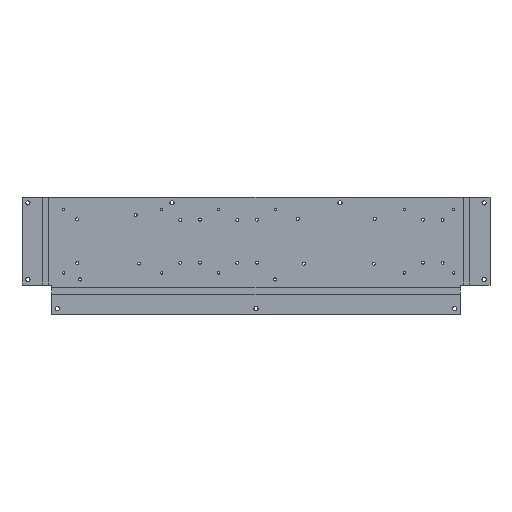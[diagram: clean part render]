
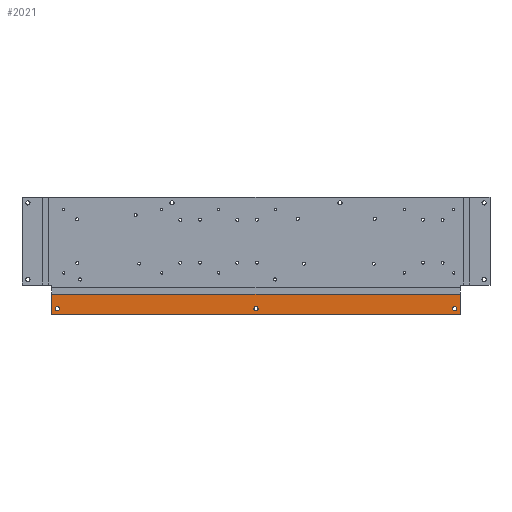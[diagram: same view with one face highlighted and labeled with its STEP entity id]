
A CAD part, top view. The second image highlights one B-rep face of the part: STEP entity #2021.
In plain terms, the highlighted planar face has unit normal (0, 0, 1).
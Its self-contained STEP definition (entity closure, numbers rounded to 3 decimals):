
#25=FACE_BOUND('',#426,.T.);
#26=FACE_BOUND('',#427,.T.);
#27=FACE_BOUND('',#428,.T.);
#196=PLANE('',#2263);
#305=FACE_OUTER_BOUND('',#425,.T.);
#425=EDGE_LOOP('',(#1765,#1766,#1767,#1768));
#426=EDGE_LOOP('',(#1769));
#427=EDGE_LOOP('',(#1770));
#428=EDGE_LOOP('',(#1771));
#626=LINE('',#3363,#773);
#633=LINE('',#3375,#780);
#641=LINE('',#3391,#788);
#643=LINE('',#3394,#790);
#773=VECTOR('',#2823,10.);
#780=VECTOR('',#2832,4.32);
#788=VECTOR('',#2848,10.);
#790=VECTOR('',#2852,10.);
#807=CIRCLE('',#2058,2.248);
#819=CIRCLE('',#2078,2.248);
#825=CIRCLE('',#2088,2.248);
#934=VERTEX_POINT('',#2922);
#946=VERTEX_POINT('',#2962);
#952=VERTEX_POINT('',#2982);
#1066=VERTEX_POINT('',#3361);
#1067=VERTEX_POINT('',#3362);
#1071=VERTEX_POINT('',#3373);
#1075=VERTEX_POINT('',#3390);
#1099=EDGE_CURVE('',#934,#934,#807,.T.);
#1119=EDGE_CURVE('',#946,#946,#819,.T.);
#1129=EDGE_CURVE('',#952,#952,#825,.T.);
#1317=EDGE_CURVE('',#1066,#1067,#626,.T.);
#1324=EDGE_CURVE('',#1067,#1071,#633,.T.);
#1332=EDGE_CURVE('',#1075,#1066,#641,.T.);
#1334=EDGE_CURVE('',#1071,#1075,#643,.T.);
#1765=ORIENTED_EDGE('',*,*,#1317,.T.);
#1766=ORIENTED_EDGE('',*,*,#1324,.T.);
#1767=ORIENTED_EDGE('',*,*,#1334,.T.);
#1768=ORIENTED_EDGE('',*,*,#1332,.T.);
#1769=ORIENTED_EDGE('',*,*,#1099,.T.);
#1770=ORIENTED_EDGE('',*,*,#1119,.T.);
#1771=ORIENTED_EDGE('',*,*,#1129,.T.);
#2021=ADVANCED_FACE('',(#305,#25,#26,#27),#196,.T.);
#2058=AXIS2_PLACEMENT_3D('',#2924,#2319,#2320);
#2078=AXIS2_PLACEMENT_3D('',#2964,#2367,#2368);
#2088=AXIS2_PLACEMENT_3D('',#2984,#2391,#2392);
#2263=AXIS2_PLACEMENT_3D('',#3397,#2856,#2857);
#2319=DIRECTION('center_axis',(0.,0.,-1.));
#2320=DIRECTION('ref_axis',(-1.,0.,0.));
#2367=DIRECTION('center_axis',(0.,0.,-1.));
#2368=DIRECTION('ref_axis',(-1.,0.,0.));
#2391=DIRECTION('center_axis',(0.,0.,-1.));
#2392=DIRECTION('ref_axis',(-1.,0.,0.));
#2823=DIRECTION('',(-1.,0.,0.));
#2832=DIRECTION('',(0.,-1.,0.));
#2848=DIRECTION('',(0.,1.,0.));
#2852=DIRECTION('',(1.,0.,0.));
#2856=DIRECTION('center_axis',(0.,0.,1.));
#2857=DIRECTION('ref_axis',(1.,0.,0.));
#2922=CARTESIAN_POINT('',(11.248,-119.436,3.));
#2924=CARTESIAN_POINT('Origin',(9.,-119.436,3.));
#2962=CARTESIAN_POINT('',(437.248,-119.436,3.));
#2964=CARTESIAN_POINT('Origin',(435.,-119.436,3.));
#2982=CARTESIAN_POINT('',(224.248,-119.436,3.));
#2984=CARTESIAN_POINT('Origin',(222.,-119.436,3.));
#3361=CARTESIAN_POINT('',(441.,-103.786,3.));
#3362=CARTESIAN_POINT('',(3.,-103.786,3.));
#3363=CARTESIAN_POINT('',(222.,-103.786,3.));
#3373=CARTESIAN_POINT('',(3.,-125.786,3.));
#3375=CARTESIAN_POINT('',(3.,-90.214,3.));
#3390=CARTESIAN_POINT('',(441.,-125.786,3.));
#3391=CARTESIAN_POINT('',(441.,-103.786,3.));
#3394=CARTESIAN_POINT('',(441.,-125.786,3.));
#3397=CARTESIAN_POINT('Origin',(222.,-48.5,3.));
